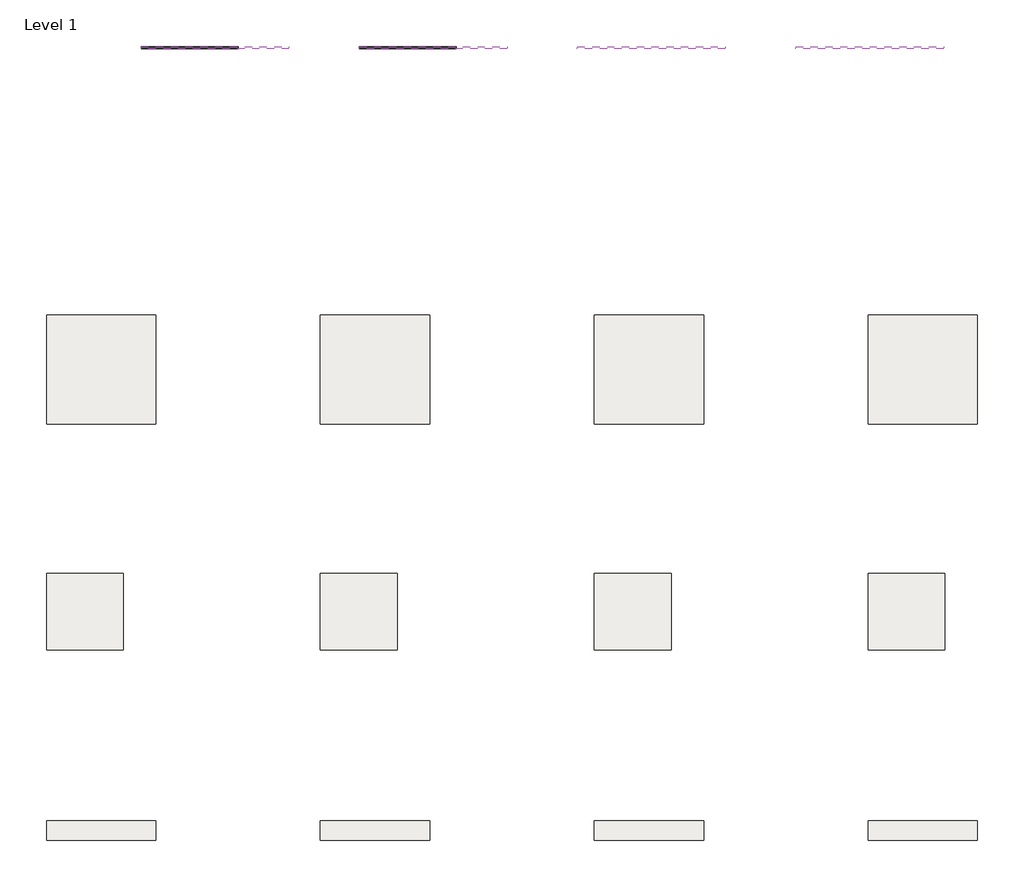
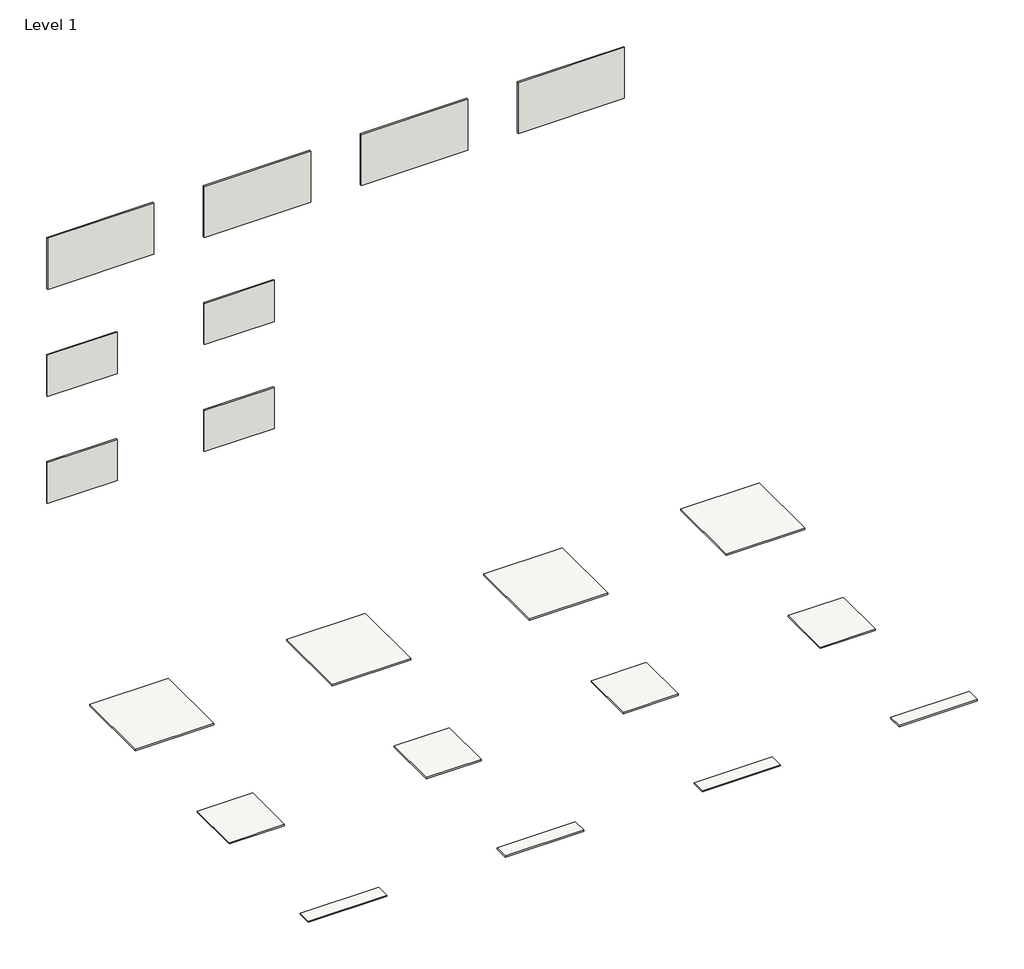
# One storey: 12 slabs, 8 walls.
"""IFC4 building model written with IfcOpenShell, lengths in millimetres."""

from ifc_helpers import new_model, si_unit, frame, origin, place, context, project, spatial, polyline, outline, extrude, element, save

model = new_model("IFC4")

# Units and contexts
model_context = context("Model", 3, world=origin())
ifc_project = project(units=[si_unit("LENGTHUNIT", "METRE", prefix="MILLI")], contexts=[model_context])

# Site, building, storey
site = spatial("IfcSite", under=ifc_project)
building = spatial("IfcBuilding", under=site)
storey = spatial("IfcBuildingStorey", under=building, Name="Level 1", Elevation=0.0)

# Slabs
placement = place(None, origin())
element("IfcSlab", 1, ObjectType="UW8T45021 Sidney Grey 45x45", at=placement, inside=storey, context=model_context, shape_type="SweptSolid", body=[
    extrude(outline(polyline([(-16668.7356421, 431.5316721), (-16668.7356421, -18.4683279), (-17118.7356421, -18.4683279), (-17118.7356421, 431.5316721), (-16668.7356421, 431.5316721)])), frame((0.0, 0.0, -8.5), z_axis=(0.0, 0.0, 1.0), x_axis=(1.0, 0.0, 0.0)), (0.0, 0.0, 1.0), 8.5),
])
element("IfcSlab", 2, ObjectType="UW8T45041 Sidney Beige 45x45", at=placement, inside=storey, context=model_context, shape_type="SweptSolid", body=[
    extrude(outline(polyline([(-15538.7356421, 431.5316721), (-15538.7356421, -18.4683279), (-15988.7356421, -18.4683279), (-15988.7356421, 431.5316721), (-15538.7356421, 431.5316721)])), frame((0.0, 0.0, -8.5), z_axis=(0.0, 0.0, 1.0), x_axis=(1.0, 0.0, 0.0)), (0.0, 0.0, 1.0), 8.5),
])
element("IfcSlab", 3, ObjectType="UW8T45251 Sidney Brown 45x45", at=placement, inside=storey, context=model_context, shape_type="SweptSolid", body=[
    extrude(outline(polyline([(-14408.7356421, 431.5316721), (-14408.7356421, -18.4683279), (-14858.7356421, -18.4683279), (-14858.7356421, 431.5316721), (-14408.7356421, 431.5316721)])), frame((0.0, 0.0, -8.5), z_axis=(0.0, 0.0, 1.0), x_axis=(1.0, 0.0, 0.0)), (0.0, 0.0, 1.0), 8.5),
])
element("IfcSlab", 4, ObjectType="UW8T45101 Sidney Graphit 45x45", at=placement, inside=storey, context=model_context, shape_type="SweptSolid", body=[
    extrude(outline(polyline([(-13278.7356421, 431.5316721), (-13278.7356421, -18.4683279), (-13728.7356421, -18.4683279), (-13728.7356421, 431.5316721), (-13278.7356421, 431.5316721)])), frame((0.0, 0.0, -8.5), z_axis=(0.0, 0.0, 1.0), x_axis=(1.0, 0.0, 0.0)), (0.0, 0.0, 1.0), 8.5),
])
element("IfcSlab", 5, ObjectType="UWT179021 Sidney Gray 31.6x31.6", at=placement, inside=storey, context=model_context, shape_type="SweptSolid", body=[
    extrude(outline(polyline([(-16802.7356421, -635.9528534), (-16802.7356421, -951.9528534), (-17118.7356421, -951.9528534), (-17118.7356421, -635.9528534), (-16802.7356421, -635.9528534)])), frame((0.0, 0.0, -7.6), z_axis=(0.0, 0.0, 1.0), x_axis=(1.0, 0.0, 0.0)), (0.0, 0.0, 1.0), 7.6),
])
element("IfcSlab", 6, ObjectType="UWT179041 Sidney, Beige 2 31.6x31.6", at=placement, inside=storey, context=model_context, shape_type="SweptSolid", body=[
    extrude(outline(polyline([(-15672.7356421, -951.9528534), (-15988.7356421, -951.9528534), (-15988.7356421, -635.9528534), (-15672.7356421, -635.9528534), (-15672.7356421, -951.9528534)])), frame((0.0, 0.0, -7.9), z_axis=(0.0, 0.0, 1.0), x_axis=(1.0, 0.0, 0.0)), (0.0, 0.0, 1.0), 7.9),
])
element("IfcSlab", 7, ObjectType="UWT179251 Sidney, Brown 31.6x31.6", at=placement, inside=storey, context=model_context, shape_type="SweptSolid", body=[
    extrude(outline(polyline([(-14542.7356421, -951.9528534), (-14858.7356421, -951.9528534), (-14858.7356421, -635.9528534), (-14542.7356421, -635.9528534), (-14542.7356421, -951.9528534)])), frame((0.0, 0.0, -7.9), z_axis=(0.0, 0.0, 1.0), x_axis=(1.0, 0.0, 0.0)), (0.0, 0.0, 1.0), 7.9),
])
element("IfcSlab", 8, ObjectType="UWT179101 Sidney, Graphit 31.6x31.6", at=placement, inside=storey, context=model_context, shape_type="SweptSolid", body=[
    extrude(outline(polyline([(-13412.7356421, -951.9528534), (-13728.7356421, -951.9528534), (-13728.7356421, -635.9528534), (-13412.7356421, -635.9528534), (-13412.7356421, -951.9528534)])), frame((0.0, 0.0, -7.9), z_axis=(0.0, 0.0, 1.0), x_axis=(1.0, 0.0, 0.0)), (0.0, 0.0, 1.0), 7.9),
])
element("IfcSlab", 9, ObjectType="UW4T95021 Sidney Gray 45x8", at=placement, inside=storey, context=model_context, shape_type="SweptSolid", body=[
    extrude(outline(polyline([(-16668.7356421, -1656.0589811), (-16668.7356421, -1736.0589811), (-17118.7356421, -1736.0589811), (-17118.7356421, -1656.0589811), (-16668.7356421, -1656.0589811)])), frame((0.0, 0.0, -7.9), z_axis=(0.0, 0.0, 1.0), x_axis=(1.0, 0.0, 0.0)), (0.0, 0.0, 1.0), 7.9),
])
element("IfcSlab", 10, ObjectType="UW4T95041 Sidney Beige 45x8", at=placement, inside=storey, context=model_context, shape_type="SweptSolid", body=[
    extrude(outline(polyline([(-15538.7356421, -1656.0589811), (-15538.7356421, -1736.0589811), (-15988.7356421, -1736.0589811), (-15988.7356421, -1656.0589811), (-15538.7356421, -1656.0589811)])), frame((0.0, 0.0, -7.9), z_axis=(0.0, 0.0, 1.0), x_axis=(1.0, 0.0, 0.0)), (0.0, 0.0, 1.0), 7.9),
])
element("IfcSlab", 11, ObjectType="UW4T95251 Sidney Brown 45x8", at=placement, inside=storey, context=model_context, shape_type="SweptSolid", body=[
    extrude(outline(polyline([(-14408.7356421, -1656.0589811), (-14408.7356421, -1736.0589811), (-14858.7356421, -1736.0589811), (-14858.7356421, -1656.0589811), (-14408.7356421, -1656.0589811)])), frame((0.0, 0.0, -7.9), z_axis=(0.0, 0.0, 1.0), x_axis=(1.0, 0.0, 0.0)), (0.0, 0.0, 1.0), 7.9),
])
element("IfcSlab", 12, ObjectType="UW4T95041 Sidney Graphit 45x8", at=placement, inside=storey, context=model_context, shape_type="SweptSolid", body=[
    extrude(outline(polyline([(-13278.7356421, -1656.0589811), (-13278.7356421, -1736.0589811), (-13728.7356421, -1736.0589811), (-13728.7356421, -1656.0589811), (-13278.7356421, -1656.0589811)])), frame((0.0, 0.0, -7.9), z_axis=(0.0, 0.0, 1.0), x_axis=(1.0, 0.0, 0.0)), (0.0, 0.0, 1.0), 7.9),
])

# Walls
element("IfcWall", 13, ObjectType="TZ9T48041 Sidney Beige 25x40", at=placement, inside=storey, context=model_context, shape_type="SweptSolid", body=[
    extrude(outline(polyline([(-16328.7356421, 1529.9620436), (-16728.7356421, 1529.9620436), (-16728.7356421, 1537.9620436), (-16328.7356421, 1537.9620436), (-16328.7356421, 1529.9620436)])), frame((0.0, 0.0, 416.6327562), z_axis=(0.0, 0.0, 1.0), x_axis=(1.0, 0.0, 0.0)), (0.0, 0.0, 1.0), 250.0),
])
element("IfcWall", 14, ObjectType="TZ9T48101 Sidney Graphit 25x40", at=placement, inside=storey, context=model_context, shape_type="SweptSolid", body=[
    extrude(outline(polyline([(-15428.7356421, 1529.9620436), (-15828.7356421, 1529.9620436), (-15828.7356421, 1537.9620436), (-15428.7356421, 1537.9620436), (-15428.7356421, 1529.9620436)])), frame((0.0, 0.0, 416.6327562), z_axis=(0.0, 0.0, 1.0), x_axis=(1.0, 0.0, 0.0)), (0.0, 0.0, 1.0), 250.0),
])
element("IfcWall", 15, ObjectType="TZT948041 Mosaic Sidney Beige 25x40", at=placement, inside=storey, context=model_context, shape_type="SweptSolid", body=[
    extrude(outline(polyline([(-16328.7356421, 1529.9620436), (-16728.7356421, 1529.9620436), (-16728.7356421, 1537.9620436), (-16328.7356421, 1537.9620436), (-16328.7356421, 1529.9620436)])), frame((0.0, 0.0, 1066.6327562), z_axis=(0.0, 0.0, 1.0), x_axis=(1.0, 0.0, 0.0)), (0.0, 0.0, 1.0), 250.0),
])
element("IfcWall", 16, ObjectType="TZT948021 Mosaic Sidney Graphit 25x40", at=placement, inside=storey, context=model_context, shape_type="SweptSolid", body=[
    extrude(outline(polyline([(-15428.7356421, 1529.9620436), (-15828.7356421, 1529.9620436), (-15828.7356421, 1537.9620436), (-15428.7356421, 1537.9620436), (-15428.7356421, 1529.9620436)])), frame((0.0, 0.0, 1066.6327562), z_axis=(0.0, 0.0, 1.0), x_axis=(1.0, 0.0, 0.0)), (0.0, 0.0, 1.0), 250.0),
])
element("IfcWall", 17, ObjectType="TZT135021 Sidney Grey 31x61", at=placement, inside=storey, context=model_context, shape_type="SweptSolid", body=[
    extrude(outline(polyline([(-16118.7356421, 1529.1120436), (-16728.7356421, 1529.1120436), (-16728.7356421, 1538.8120436), (-16118.7356421, 1538.8120436), (-16118.7356421, 1529.1120436)])), frame((0.0, 0.0, 1716.6327562), z_axis=(0.0, 0.0, 1.0), x_axis=(1.0, 0.0, 0.0)), (0.0, 0.0, 1.0), 310.0),
])
element("IfcWall", 18, ObjectType="TZT135041 Sidney Beige 31x61", at=placement, inside=storey, context=model_context, shape_type="SweptSolid", body=[
    extrude(outline(polyline([(-15218.7356421, 1529.1120436), (-15828.7356421, 1529.1120436), (-15828.7356421, 1538.8120436), (-15218.7356421, 1538.8120436), (-15218.7356421, 1529.1120436)])), frame((0.0, 0.0, 1716.6327562), z_axis=(0.0, 0.0, 1.0), x_axis=(1.0, 0.0, 0.0)), (0.0, 0.0, 1.0), 310.0),
])
element("IfcWall", 19, ObjectType="TZT135101 Sidney Graphit 31x61", at=placement, inside=storey, context=model_context, shape_type="SweptSolid", body=[
    extrude(outline(polyline([(-14318.7356421, 1529.1120436), (-14928.7356421, 1529.1120436), (-14928.7356421, 1538.8120436), (-14318.7356421, 1538.8120436), (-14318.7356421, 1529.1120436)])), frame((0.0, 0.0, 1716.6327562), z_axis=(0.0, 0.0, 1.0), x_axis=(1.0, 0.0, 0.0)), (0.0, 0.0, 1.0), 310.0),
])
element("IfcWall", 20, ObjectType="TZT135251 Sidney Brown 31x61", at=placement, inside=storey, context=model_context, shape_type="SweptSolid", body=[
    extrude(outline(polyline([(-13418.7356421, 1529.9620436), (-14028.7356421, 1529.9620436), (-14028.7356421, 1537.9620436), (-13418.7356421, 1537.9620436), (-13418.7356421, 1529.9620436)])), frame((0.0, 0.0, 1716.6327562), z_axis=(0.0, 0.0, 1.0), x_axis=(1.0, 0.0, 0.0)), (0.0, 0.0, 1.0), 310.0),
])

save(model, "model.ifc")
